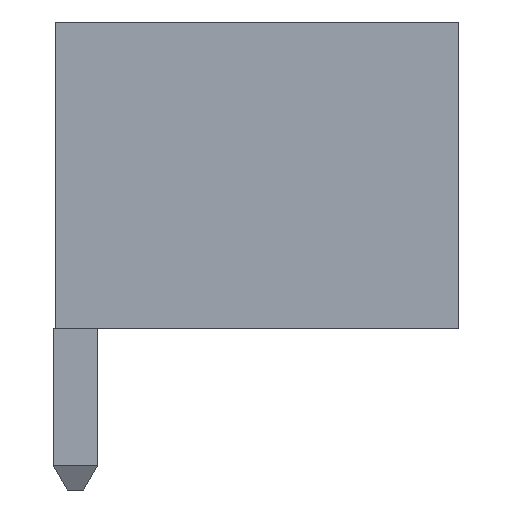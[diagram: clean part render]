
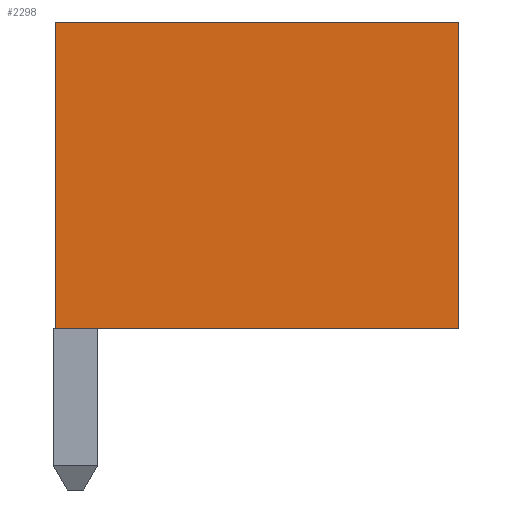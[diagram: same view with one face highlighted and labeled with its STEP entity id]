
A CAD part, left-side view. The second image highlights one B-rep face of the part: STEP entity #2298.
In plain terms, the highlighted planar face has unit normal (-1, 0, 0).
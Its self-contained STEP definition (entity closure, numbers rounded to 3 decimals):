
#2259 = CARTESIAN_POINT ( 'NONE',  ( -2.25, 0.25, 0. ) ) ;
#2260 = VERTEX_POINT ( 'NONE', #2259 ) ;
#2261 = CARTESIAN_POINT ( 'NONE',  ( -2.25, -4.751, 0. ) ) ;
#2262 = VERTEX_POINT ( 'NONE', #2261 ) ;
#2263 = CARTESIAN_POINT ( 'NONE',  ( -2.25, 0.25, 0. ) ) ;
#2264 = DIRECTION ( 'NONE',  ( 0., -1., 0. ) ) ;
#2265 = VECTOR ( 'NONE', #2264, 1000. ) ;
#2266 = LINE ( 'NONE', #2263, #2265 ) ;
#2267 = EDGE_CURVE ( 'NONE', #2260, #2262, #2266, .T. ) ;
#2268 = ORIENTED_EDGE ( 'NONE', *, *, #2267, .T. ) ;
#2269 = CARTESIAN_POINT ( 'NONE',  ( -2.25, -4.751, 3.8 ) ) ;
#2270 = VERTEX_POINT ( 'NONE', #2269 ) ;
#2271 = CARTESIAN_POINT ( 'NONE',  ( -2.25, -4.751, 3.8 ) ) ;
#2272 = DIRECTION ( 'NONE',  ( 0., 0., -1. ) ) ;
#2273 = VECTOR ( 'NONE', #2272, 1000. ) ;
#2274 = LINE ( 'NONE', #2271, #2273 ) ;
#2275 = EDGE_CURVE ( 'NONE', #2270, #2262, #2274, .T. ) ;
#2276 = ORIENTED_EDGE ( 'NONE', *, *, #2275, .F. ) ;
#2277 = CARTESIAN_POINT ( 'NONE',  ( -2.25, 0.25, 3.8 ) ) ;
#2278 = VERTEX_POINT ( 'NONE', #2277 ) ;
#2279 = CARTESIAN_POINT ( 'NONE',  ( -2.25, 0.25, 3.8 ) ) ;
#2280 = DIRECTION ( 'NONE',  ( 0., -1., 0. ) ) ;
#2281 = VECTOR ( 'NONE', #2280, 1000. ) ;
#2282 = LINE ( 'NONE', #2279, #2281 ) ;
#2283 = EDGE_CURVE ( 'NONE', #2278, #2270, #2282, .T. ) ;
#2284 = ORIENTED_EDGE ( 'NONE', *, *, #2283, .F. ) ;
#2285 = CARTESIAN_POINT ( 'NONE',  ( -2.25, 0.25, 3.8 ) ) ;
#2286 = DIRECTION ( 'NONE',  ( 0., 0., -1. ) ) ;
#2287 = VECTOR ( 'NONE', #2286, 1000. ) ;
#2288 = LINE ( 'NONE', #2285, #2287 ) ;
#2289 = EDGE_CURVE ( 'NONE', #2278, #2260, #2288, .T. ) ;
#2290 = ORIENTED_EDGE ( 'NONE', *, *, #2289, .T. ) ;
#2291 = EDGE_LOOP ( 'NONE', ( #2268, #2276, #2284, #2290 ) ) ;
#2292 = FACE_OUTER_BOUND ( 'NONE', #2291, .T. ) ;
#2293 = CARTESIAN_POINT ( 'NONE',  ( -2.25, 0.25, 3.8 ) ) ;
#2294 = DIRECTION ( 'NONE',  ( 1., 0., 0. ) ) ;
#2295 = DIRECTION ( 'NONE',  ( 0., 1., 0. ) ) ;
#2296 = AXIS2_PLACEMENT_3D ( 'NONE', #2293, #2294, #2295 ) ;
#2297 = PLANE ( 'NONE', #2296 ) ;
#2298 = ADVANCED_FACE ( 'NONE', ( #2292 ), #2297, .F. ) ;
